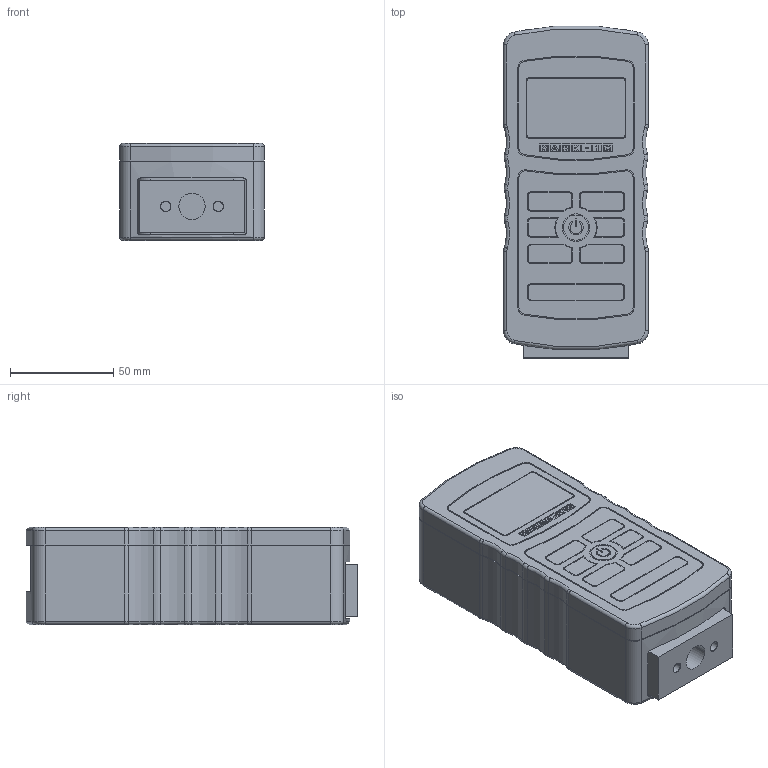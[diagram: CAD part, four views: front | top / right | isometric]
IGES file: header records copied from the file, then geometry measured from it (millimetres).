
Global section: file name: No Iges File Name specified; native system: Autodesk Inventor 2010; preprocessor: AutoDesk Inventor Iges Exporter R2010; author: mlampen; date: 20110824.171907; units: inch
Bounding box: 69.85 x 160.39 x 46.91 mm (x, y, z)
Volume: 486923.1 mm3; surface area: 51771.7 mm2
Topology: 2 solids, 2 shells, 792 faces, 1990 edges, 1289 vertices
Faces by surface type: plane 337, revolution 182, cylinder 136, bspline 81, torus 52, sphere 4
